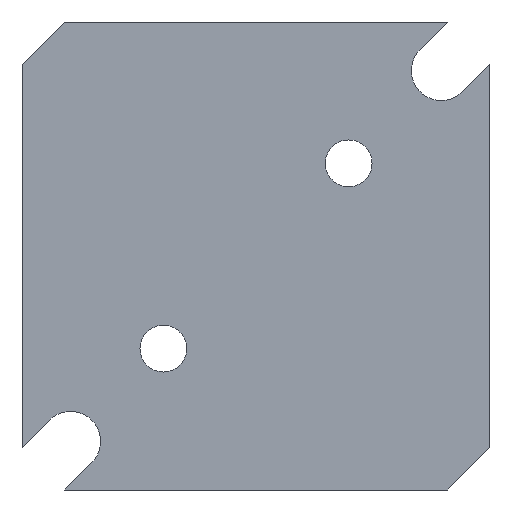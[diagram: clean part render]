
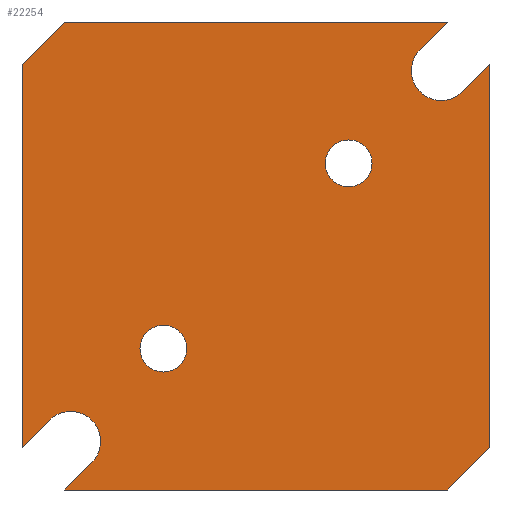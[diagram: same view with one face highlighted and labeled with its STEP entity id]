
A CAD part, front view. The second image highlights one B-rep face of the part: STEP entity #22254.
In plain terms, the highlighted planar face has unit normal (0, -1, 0).
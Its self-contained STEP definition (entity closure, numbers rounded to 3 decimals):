
#27 = VECTOR ( 'NONE', #14173, 1000. ) ;
#548 = ORIENTED_EDGE ( 'NONE', *, *, #4836, .T. ) ;
#550 = DIRECTION ( 'NONE',  ( -0.707, 0., -0.707 ) ) ;
#621 = CIRCLE ( 'NONE', #1909, 1.25 ) ;
#663 = VECTOR ( 'NONE', #18355, 1000. ) ;
#1107 = ORIENTED_EDGE ( 'NONE', *, *, #25176, .F. ) ;
#1216 = AXIS2_PLACEMENT_3D ( 'NONE', #15623, #15501, #7436 ) ;
#1397 = EDGE_CURVE ( 'NONE', #23794, #20427, #20632, .T. ) ;
#1569 = DIRECTION ( 'NONE',  ( 0., 0., 1. ) ) ;
#1621 = CARTESIAN_POINT ( 'NONE',  ( 161.385, 0., -88.855 ) ) ;
#1781 = VERTEX_POINT ( 'NONE', #5727 ) ;
#1909 = AXIS2_PLACEMENT_3D ( 'NONE', #13443, #3067, #25843 ) ;
#1972 = VERTEX_POINT ( 'NONE', #23828 ) ;
#2009 = EDGE_CURVE ( 'NONE', #5970, #1781, #15003, .T. ) ;
#2368 = CARTESIAN_POINT ( 'NONE',  ( 163.647, 0., -91.118 ) ) ;
#2461 = EDGE_CURVE ( 'NONE', #14612, #14162, #19061, .T. ) ;
#3067 = DIRECTION ( 'NONE',  ( 0., 1., 0. ) ) ;
#3077 = CARTESIAN_POINT ( 'NONE',  ( 163.647, 0., -66.118 ) ) ;
#3098 = PLANE ( 'NONE',  #25530 ) ;
#3382 = CARTESIAN_POINT ( 'NONE',  ( 161.385, 0., -88.855 ) ) ;
#3784 = LINE ( 'NONE', #1621, #22655 ) ;
#4080 = VECTOR ( 'NONE', #16857, 1000. ) ;
#4303 = CARTESIAN_POINT ( 'NONE',  ( 183.785, 0., -68.718 ) ) ;
#4550 = VERTEX_POINT ( 'NONE', #10387 ) ;
#4831 = LINE ( 'NONE', #21839, #17133 ) ;
#4836 = EDGE_CURVE ( 'NONE', #5567, #1972, #20738, .T. ) ;
#5095 = CARTESIAN_POINT ( 'NONE',  ( 163.647, 0., -91.118 ) ) ;
#5126 = FACE_OUTER_BOUND ( 'NONE', #18651, .T. ) ;
#5272 = CARTESIAN_POINT ( 'NONE',  ( 184.122, 0., -66.118 ) ) ;
#5567 = VERTEX_POINT ( 'NONE', #10862 ) ;
#5679 = EDGE_CURVE ( 'NONE', #16739, #14612, #26104, .T. ) ;
#5690 = DIRECTION ( 'NONE',  ( 0., 1., 0. ) ) ;
#5727 = CARTESIAN_POINT ( 'NONE',  ( 182.653, 0., -67.586 ) ) ;
#5970 = VERTEX_POINT ( 'NONE', #8968 ) ;
#5990 = EDGE_CURVE ( 'NONE', #16865, #25320, #621, .T. ) ;
#6784 = DIRECTION ( 'NONE',  ( -0.707, 0., -0.707 ) ) ;
#6836 = EDGE_CURVE ( 'NONE', #22344, #13745, #7696, .T. ) ;
#6900 = LINE ( 'NONE', #5095, #26140 ) ;
#7278 = CARTESIAN_POINT ( 'NONE',  ( 186.385, 0., -88.855 ) ) ;
#7429 = ORIENTED_EDGE ( 'NONE', *, *, #20645, .F. ) ;
#7436 = DIRECTION ( 'NONE',  ( 0., 0., 1. ) ) ;
#7606 = CARTESIAN_POINT ( 'NONE',  ( 183.785, 0., -68.718 ) ) ;
#7675 = DIRECTION ( 'NONE',  ( 0., 0., -1. ) ) ;
#7696 = LINE ( 'NONE', #10022, #663 ) ;
#8470 = EDGE_CURVE ( 'NONE', #25867, #13671, #6900, .T. ) ;
#8567 = EDGE_CURVE ( 'NONE', #1972, #5567, #8593, .T. ) ;
#8587 = CARTESIAN_POINT ( 'NONE',  ( 183.785, 0., -70.318 ) ) ;
#8593 = CIRCLE ( 'NONE', #14235, 1.25 ) ;
#8929 = AXIS2_PLACEMENT_3D ( 'NONE', #24472, #5690, #22576 ) ;
#8968 = CARTESIAN_POINT ( 'NONE',  ( 184.122, 0., -66.118 ) ) ;
#8973 = ORIENTED_EDGE ( 'NONE', *, *, #5679, .F. ) ;
#9148 = ORIENTED_EDGE ( 'NONE', *, *, #13691, .F. ) ;
#9203 = ORIENTED_EDGE ( 'NONE', *, *, #5990, .T. ) ;
#10022 = CARTESIAN_POINT ( 'NONE',  ( 161.385, 0., -68.38 ) ) ;
#10093 = ORIENTED_EDGE ( 'NONE', *, *, #1397, .F. ) ;
#10387 = CARTESIAN_POINT ( 'NONE',  ( 162.853, 0., -87.386 ) ) ;
#10726 = CARTESIAN_POINT ( 'NONE',  ( 186.385, 0., -68.38 ) ) ;
#10862 = CARTESIAN_POINT ( 'NONE',  ( 168.935, 0., -82.317 ) ) ;
#11453 = DIRECTION ( 'NONE',  ( 0., 1., 0. ) ) ;
#11505 = VECTOR ( 'NONE', #7675, 1000. ) ;
#11682 = CARTESIAN_POINT ( 'NONE',  ( 178.835, 0., -74.918 ) ) ;
#11871 = CARTESIAN_POINT ( 'NONE',  ( 183.785, 0., -68.718 ) ) ;
#12513 = DIRECTION ( 'NONE',  ( 0., 0., 1. ) ) ;
#12933 = CARTESIAN_POINT ( 'NONE',  ( 184.916, 0., -69.849 ) ) ;
#13349 = FACE_BOUND ( 'NONE', #23297, .T. ) ;
#13443 = CARTESIAN_POINT ( 'NONE',  ( 178.835, 0., -73.668 ) ) ;
#13481 = DIRECTION ( 'NONE',  ( 1., 0., 0. ) ) ;
#13574 = CARTESIAN_POINT ( 'NONE',  ( 168.935, 0., -83.567 ) ) ;
#13671 = VERTEX_POINT ( 'NONE', #20484 ) ;
#13691 = EDGE_CURVE ( 'NONE', #20131, #22344, #3784, .T. ) ;
#13745 = VERTEX_POINT ( 'NONE', #3077 ) ;
#13757 = EDGE_CURVE ( 'NONE', #13671, #4550, #14279, .T. ) ;
#13997 = CARTESIAN_POINT ( 'NONE',  ( 161.385, 0., -68.38 ) ) ;
#14064 = ORIENTED_EDGE ( 'NONE', *, *, #17177, .F. ) ;
#14162 = VERTEX_POINT ( 'NONE', #23252 ) ;
#14173 = DIRECTION ( 'NONE',  ( 0.707, 0., 0.707 ) ) ;
#14235 = AXIS2_PLACEMENT_3D ( 'NONE', #13574, #22249, #1569 ) ;
#14279 = CIRCLE ( 'NONE', #1216, 1.6 ) ;
#14479 = CARTESIAN_POINT ( 'NONE',  ( 178.835, 0., -73.668 ) ) ;
#14517 = ORIENTED_EDGE ( 'NONE', *, *, #2009, .F. ) ;
#14612 = VERTEX_POINT ( 'NONE', #17640 ) ;
#14795 = ORIENTED_EDGE ( 'NONE', *, *, #17790, .T. ) ;
#15003 = LINE ( 'NONE', #17061, #19337 ) ;
#15501 = DIRECTION ( 'NONE',  ( 0., -1., 0. ) ) ;
#15623 = CARTESIAN_POINT ( 'NONE',  ( 163.985, 0., -88.518 ) ) ;
#15817 = VECTOR ( 'NONE', #13481, 1000. ) ;
#16007 = ORIENTED_EDGE ( 'NONE', *, *, #25833, .F. ) ;
#16133 = AXIS2_PLACEMENT_3D ( 'NONE', #11871, #27126, #18280 ) ;
#16188 = DIRECTION ( 'NONE',  ( 0., -1., 0. ) ) ;
#16449 = ORIENTED_EDGE ( 'NONE', *, *, #2461, .F. ) ;
#16739 = VERTEX_POINT ( 'NONE', #10726 ) ;
#16857 = DIRECTION ( 'NONE',  ( -0.707, 0., -0.707 ) ) ;
#16865 = VERTEX_POINT ( 'NONE', #20526 ) ;
#17061 = CARTESIAN_POINT ( 'NONE',  ( 184.122, 0., -66.118 ) ) ;
#17133 = VECTOR ( 'NONE', #6784, 1000. ) ;
#17177 = EDGE_CURVE ( 'NONE', #20427, #16739, #26996, .T. ) ;
#17640 = CARTESIAN_POINT ( 'NONE',  ( 186.385, 0., -88.855 ) ) ;
#17722 = ORIENTED_EDGE ( 'NONE', *, *, #8470, .F. ) ;
#17790 = EDGE_CURVE ( 'NONE', #25320, #16865, #21041, .T. ) ;
#18017 = CARTESIAN_POINT ( 'NONE',  ( 186.385, 0., -68.38 ) ) ;
#18280 = DIRECTION ( 'NONE',  ( 0., 0., 1. ) ) ;
#18355 = DIRECTION ( 'NONE',  ( 0.707, 0., 0.707 ) ) ;
#18651 = EDGE_LOOP ( 'NONE', ( #7429, #16449, #8973, #14064, #10093, #20761, #14517, #16007, #23329, #9148, #1107, #20189, #17722 ) ) ;
#18781 = VECTOR ( 'NONE', #19041, 1000. ) ;
#19041 = DIRECTION ( 'NONE',  ( -1., 0., 0. ) ) ;
#19061 = LINE ( 'NONE', #27077, #4080 ) ;
#19337 = VECTOR ( 'NONE', #550, 1000. ) ;
#19648 = FACE_BOUND ( 'NONE', #26484, .T. ) ;
#20131 = VERTEX_POINT ( 'NONE', #3382 ) ;
#20189 = ORIENTED_EDGE ( 'NONE', *, *, #13757, .F. ) ;
#20427 = VERTEX_POINT ( 'NONE', #12933 ) ;
#20484 = CARTESIAN_POINT ( 'NONE',  ( 165.116, 0., -89.649 ) ) ;
#20526 = CARTESIAN_POINT ( 'NONE',  ( 178.835, 0., -72.418 ) ) ;
#20632 = CIRCLE ( 'NONE', #24576, 1.6 ) ;
#20645 = EDGE_CURVE ( 'NONE', #14162, #25867, #21120, .T. ) ;
#20738 = CIRCLE ( 'NONE', #8929, 1.25 ) ;
#20761 = ORIENTED_EDGE ( 'NONE', *, *, #21013, .F. ) ;
#21013 = EDGE_CURVE ( 'NONE', #1781, #23794, #25403, .T. ) ;
#21041 = CIRCLE ( 'NONE', #24549, 1.25 ) ;
#21120 = LINE ( 'NONE', #2368, #18781 ) ;
#21839 = CARTESIAN_POINT ( 'NONE',  ( 161.385, 0., -88.855 ) ) ;
#22014 = DIRECTION ( 'NONE',  ( 0., 0., 1. ) ) ;
#22249 = DIRECTION ( 'NONE',  ( 0., 1., 0. ) ) ;
#22254 = ADVANCED_FACE ( 'NONE', ( #19648, #13349, #5126 ), #3098, .F. ) ;
#22344 = VERTEX_POINT ( 'NONE', #13997 ) ;
#22576 = DIRECTION ( 'NONE',  ( 0., 0., 1. ) ) ;
#22655 = VECTOR ( 'NONE', #26713, 1000. ) ;
#23252 = CARTESIAN_POINT ( 'NONE',  ( 184.122, 0., -91.118 ) ) ;
#23297 = EDGE_LOOP ( 'NONE', ( #548, #24467 ) ) ;
#23329 = ORIENTED_EDGE ( 'NONE', *, *, #6836, .F. ) ;
#23505 = DIRECTION ( 'NONE',  ( 0.707, 0., 0.707 ) ) ;
#23794 = VERTEX_POINT ( 'NONE', #8587 ) ;
#23828 = CARTESIAN_POINT ( 'NONE',  ( 168.935, 0., -84.817 ) ) ;
#24467 = ORIENTED_EDGE ( 'NONE', *, *, #8567, .T. ) ;
#24472 = CARTESIAN_POINT ( 'NONE',  ( 168.935, 0., -83.567 ) ) ;
#24534 = DIRECTION ( 'NONE',  ( 0., 0., 1. ) ) ;
#24549 = AXIS2_PLACEMENT_3D ( 'NONE', #14479, #27033, #24534 ) ;
#24576 = AXIS2_PLACEMENT_3D ( 'NONE', #4303, #16188, #12513 ) ;
#25176 = EDGE_CURVE ( 'NONE', #4550, #20131, #4831, .T. ) ;
#25320 = VERTEX_POINT ( 'NONE', #11682 ) ;
#25403 = CIRCLE ( 'NONE', #16133, 1.6 ) ;
#25530 = AXIS2_PLACEMENT_3D ( 'NONE', #7606, #11453, #22014 ) ;
#25833 = EDGE_CURVE ( 'NONE', #13745, #5970, #26156, .T. ) ;
#25843 = DIRECTION ( 'NONE',  ( 0., 0., 1. ) ) ;
#25867 = VERTEX_POINT ( 'NONE', #26284 ) ;
#26104 = LINE ( 'NONE', #7278, #11505 ) ;
#26140 = VECTOR ( 'NONE', #23505, 1000. ) ;
#26156 = LINE ( 'NONE', #5272, #15817 ) ;
#26284 = CARTESIAN_POINT ( 'NONE',  ( 163.647, 0., -91.118 ) ) ;
#26484 = EDGE_LOOP ( 'NONE', ( #9203, #14795 ) ) ;
#26713 = DIRECTION ( 'NONE',  ( 0., 0., 1. ) ) ;
#26996 = LINE ( 'NONE', #18017, #27 ) ;
#27033 = DIRECTION ( 'NONE',  ( 0., 1., 0. ) ) ;
#27077 = CARTESIAN_POINT ( 'NONE',  ( 184.122, 0., -91.118 ) ) ;
#27126 = DIRECTION ( 'NONE',  ( 0., -1., 0. ) ) ;
